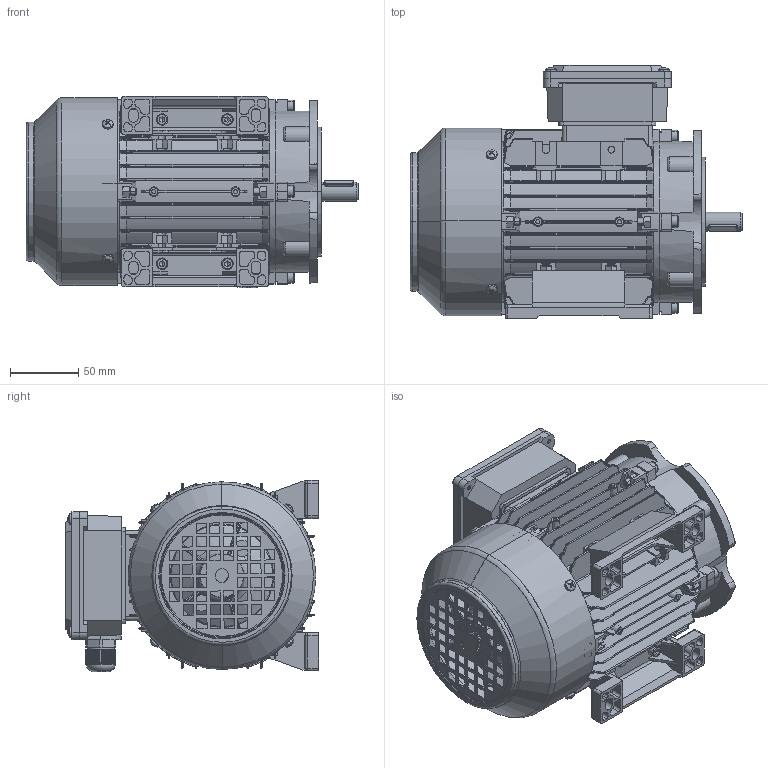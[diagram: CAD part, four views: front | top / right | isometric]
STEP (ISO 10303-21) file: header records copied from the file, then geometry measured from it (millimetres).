
FILE_DESCRIPTION (( 'STEP AP203' ), '1' );
FILE_NAME ('TAN71 B34B.STEP', '2016-08-02T01:04:38', ( 'USER' ), ( 'MS' ), 'SwSTEP 2.0', 'SolidWorks 2008', '' );
FILE_SCHEMA (( 'CONFIG_CONTROL_DESIGN' ));
Length unit declared in the file: millimetre
Products named in the file (17): TAN71 底脚_默认; T71转轴_默认; Cross recessed thread forming screws GB_GB_CROSS_SCREWS_TYPE138 M4X10-N; MS63-71 新接线盒盖_默认; Plain parallel keys_GB_CONNECTING_PIECE_KEYS_CSK 5X22; TAN71 B14B盖_默认; TAN71 B34B; TAN71 机壳_默认; TAN71 后盖_默认; TA71风罩_默认; MS63-71 出线螺套_默认; MS71 风叶_默认; MS63-71 新接线盒座_默认; Hexagon socket head cap screws GB_GB_FASTENER_SCREWS_HSHCS M5X25-N; Hexagon socket head cap screws GB_GB_FASTENER_SCREWS_HSHCS M5X20-N; Hexagon nuts grade C GB_GB_FASTENER_NUT_SNC1 M5-N; Hexagon socket head cap screws GB_GB_FASTENER_SCREWS_HSHCS M5X16-N
Assembly tree (45 placements, depth 2):
  TAN71 B34B
    Cross recessed thread forming screws GB_GB_CROSS_SCREWS_TYPE138 M4X10-N  x8
    Hexagon nuts grade C GB_GB_FASTENER_NUT_SNC1 M5-N  x12
    Hexagon socket head cap screws GB_GB_FASTENER_SCREWS_HSHCS M5X25-N  x8
    TAN71 B14B盖_默认
    MS63-71 新接线盒盖_默认
    Hexagon socket head cap screws GB_GB_FASTENER_SCREWS_HSHCS M5X16-N  x4
    MS63-71 出线螺套_默认
    TAN71 机壳_默认
    T71转轴_默认
    MS63-71 新接线盒座_默认
    TAN71 底脚_默认  x2
    MS71 风叶_默认
    TAN71 后盖_默认
    TA71风罩_默认
    Plain parallel keys_GB_CONNECTING_PIECE_KEYS_CSK 5X22
    Hexagon socket head cap screws GB_GB_FASTENER_SCREWS_HSHCS M5X20-N
Bounding box: 244 x 186 x 140.5 mm (x, y, z)
Volume: 675105 mm3; surface area: 525073.9 mm2
Topology: 45 solids, 45 shells, 4568 faces, 11954 edges, 7521 vertices
Faces by surface type: plane 2225, cylinder 1158, bspline 548, cone 419, torus 182, sphere 36
Entity records: 138588 total; most frequent: CARTESIAN_POINT 46326, ORIENTED_EDGE 20242, DIRECTION 16901, EDGE_CURVE 10121, VERTEX_POINT 6407, AXIS2_PLACEMENT_3D 5898, VECTOR 5105, LINE 5105
